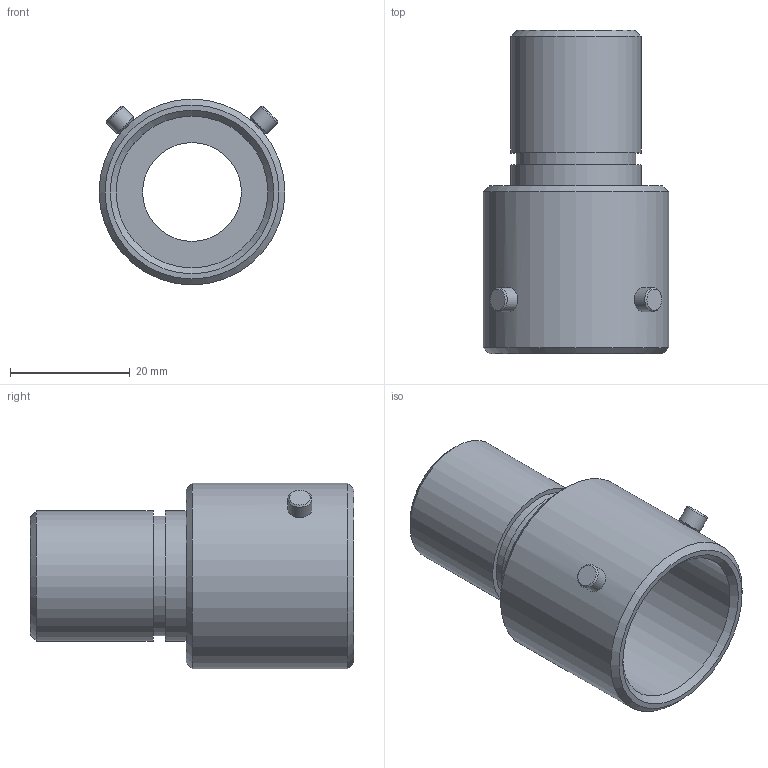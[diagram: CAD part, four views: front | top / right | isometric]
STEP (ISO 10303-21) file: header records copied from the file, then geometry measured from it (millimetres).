
FILE_DESCRIPTION( ( 'STEP AP203' ), '1' );
FILE_NAME( 'p:/temp/worker_32/temp/exporttempdir_576_404_1T3Iv/format_1/E89063.stp', '2021-10-15T08:01:41', ( 'License CC BY-ND 4.0' ), ( 'CADENAS' ), ' ', 'PARTsolutions', ' ' );
FILE_SCHEMA( ( 'CONFIG_CONTROL_DESIGN' ) );
Length unit declared in the file: millimetre
Products named in the file (1): _E89063
Bounding box: 31 x 54 x 31 mm (x, y, z)
Volume: 11708.8 mm3; surface area: 9085.1 mm2
Topology: 1 solids, 1 shells, 29 faces, 60 edges, 37 vertices
Faces by surface type: cylinder 10, plane 10, cone 9
Full cylindrical faces by diameter (mm): 3.2 x2, 4 x2, 16.5 x1, 20 x1, 21.7 x2, 25.3 x1, 31 x1
Entity records: 892 total; most frequent: CARTESIAN_POINT 294, DIRECTION 118, ORIENTED_EDGE 78, EDGE_LOOP 62, AXIS2_PLACEMENT_3D 59, FACE_OUTER_BOUND 39, EDGE_CURVE 39, VERTEX_POINT 35
